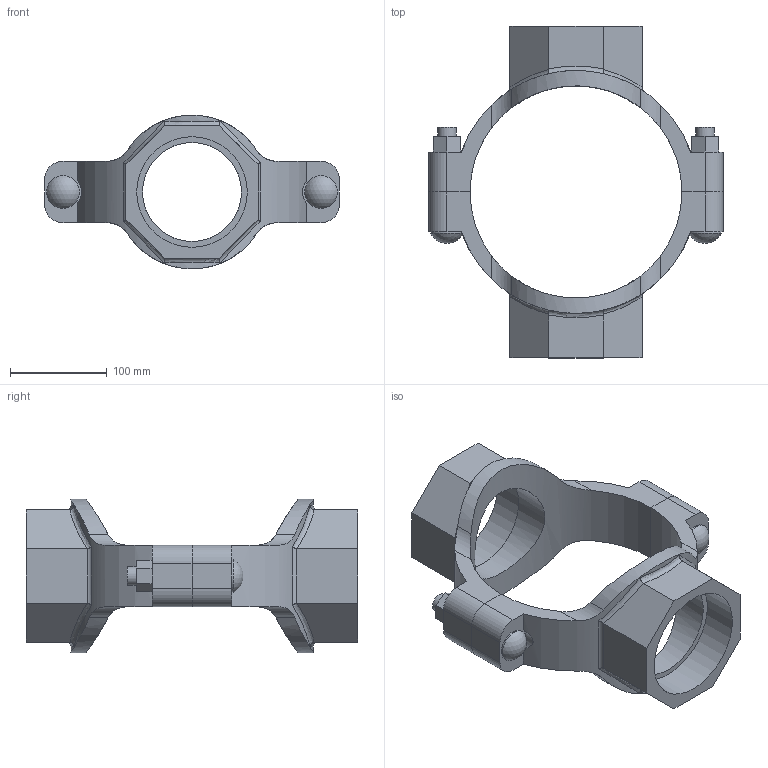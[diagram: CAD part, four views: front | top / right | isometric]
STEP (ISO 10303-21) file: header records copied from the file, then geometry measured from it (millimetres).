
FILE_DESCRIPTION(/* description */ ('VIC MECH-T BRANCH OUTLET CROSS STYLE 920N (THD)','CAx-IF Rec.Pracs.---Representation and Presentation of Product Manufacturing Information (PMI)---4.0---2014-10-13'),/* implementation_level */ '2;1');
FILE_NAME(/* name */ 'C:\Users\Vjadhav\AppData\Roaming\Autodesk\ApplicationPlugins\Back Up\Victaulic_IPS_Mechanical-Cross Outlet_Style 920N (FPT)\Victaulic_IPS_Mechanical-Cross Outlet_08.0x04.0x04.0 (200x100x100).stp',/* time_stamp */ '2020-08-06T19:01:18+06:00',/* author */ ('Vjadhav'),/* organization */ ('Victaulic'),/* preprocessor_version */ 'ST-DEVELOPER v17.2',/* originating_system */ 'Autodesk Inventor 2019',/* authorisation */ '');
FILE_SCHEMA (('AP242_MANAGED_MODEL_BASED_3D_ENGINEERING_MIM_LF { 1 0 10303 442 1 1 4 }'));
Length unit declared in the file: inch
Products named in the file (3): 920NT-08.0x04.0x04.0; 920T-08.0x04.0; 920T-08.0x04.0_1
Assembly tree (2 placements, depth 2):
  920NT-08.0x04.0x04.0
    920T-08.0x04.0
    920T-08.0x04.0_1
Bounding box: 304.8 x 342.9 x 158.71 mm (x, y, z)
Volume: 1727698.4 mm3; surface area: 278745.8 mm2
Topology: 2 solids, 2 shells, 132 faces, 350 edges, 236 vertices
Faces by surface type: plane 68, cylinder 50, bspline 8, torus 4, sphere 2
Full cylindrical faces by diameter (mm): 19.05 x4, 33.843 x2, 102.394 x2, 114.3 x2
Entity records: 5186 total; most frequent: CARTESIAN_POINT 1673, ORIENTED_EDGE 700, DIRECTION 648, EDGE_CURVE 350, VERTEX_POINT 236, AXIS2_PLACEMENT_3D 231, LINE 186, VECTOR 186
